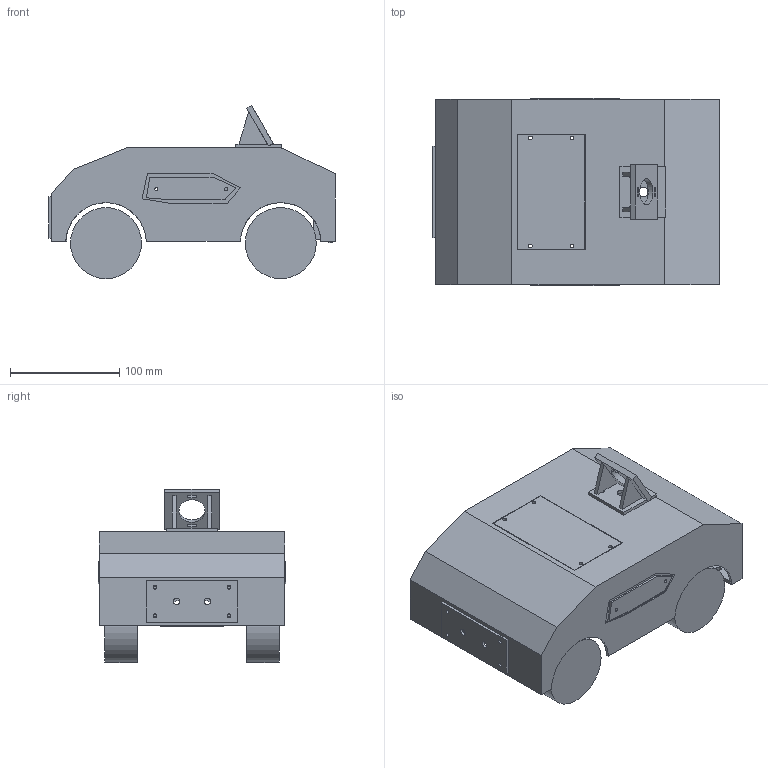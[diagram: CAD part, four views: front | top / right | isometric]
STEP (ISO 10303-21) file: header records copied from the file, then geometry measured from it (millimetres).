
FILE_DESCRIPTION(('Open CASCADE Model'),'2;1');
FILE_NAME('AETHER_4WD_Fit_Reference_Assembly','2026-10-12T13:16:35',( 'Author'),('Open CASCADE'),'Open CASCADE STEP processor 7.9', 'build123d','Unknown');
FILE_SCHEMA(('AUTOMOTIVE_DESIGN { 1 0 10303 214 1 1 1 1 }'));
Length unit declared in the file: millimetre
Products named in the file (13): AETHER_4WD_Fit_Reference_Assembly; AETHER_Main_Body_Shell; AETHER_Removable_Top_Cover; AETHER_Front_Camera_Mount; AETHER_Ultrasonic_Sensor_Mount; AETHER_Motion_Detector_Mount; AETHER_Rear_Access_Panel; AETHER_Identity_Panel_Blue; AETHER_Identity_Panel_Red; Reference_Wheel_Envelope_1; Reference_Wheel_Envelope_2; Reference_Wheel_Envelope_3; Reference_Wheel_Envelope_4
Assembly tree (12 placements, depth 2):
  AETHER_4WD_Fit_Reference_Assembly
    AETHER_Main_Body_Shell
    AETHER_Removable_Top_Cover
    AETHER_Front_Camera_Mount
    AETHER_Ultrasonic_Sensor_Mount
    AETHER_Motion_Detector_Mount
    AETHER_Rear_Access_Panel
    AETHER_Identity_Panel_Blue
    AETHER_Identity_Panel_Red
    Reference_Wheel_Envelope_1
    Reference_Wheel_Envelope_2
    Reference_Wheel_Envelope_3
    Reference_Wheel_Envelope_4
Bounding box: 262.5 x 172 x 158.57 mm (x, y, z)
Volume: 728930.4 mm3; surface area: 290993.4 mm2
Topology: 12 solids, 12 shells, 333 faces, 932 edges, 616 vertices
Faces by surface type: plane 248, cylinder 85
Full cylindrical faces by diameter (mm): 2.5 x11, 2.9 x8, 3.4 x35, 4.5 x4, 6 x2, 8.6 x4, 9 x2, 9.2 x4, 14 x2, 17.4 x4, 24 x1, 65 x4
Entity records: 23268 total; most frequent: CARTESIAN_POINT 4514, DIRECTION 3221, ORIENTED_EDGE 1864, PCURVE 1864, DEFINITIONAL_REPRESENTATION 1864, LINE 1858, VECTOR 1858, EDGE_CURVE 932
